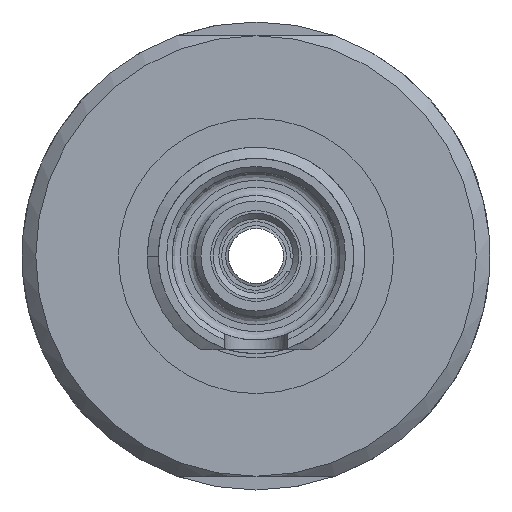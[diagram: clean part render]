
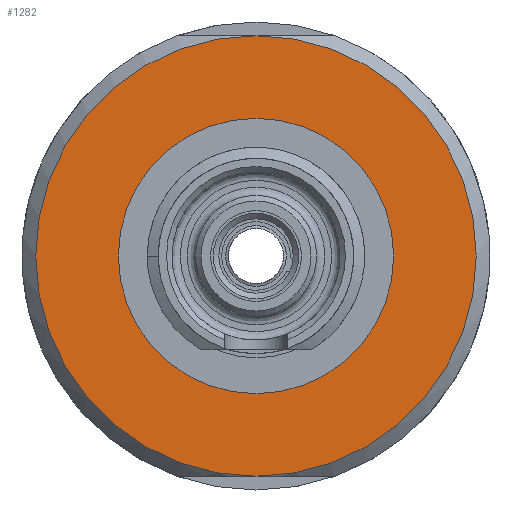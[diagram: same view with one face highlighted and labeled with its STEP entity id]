
A CAD part, left-side view. The second image highlights one B-rep face of the part: STEP entity #1282.
In plain terms, the highlighted planar face has unit normal (-1, 0, 0).
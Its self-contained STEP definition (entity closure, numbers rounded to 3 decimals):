
#174 = EDGE_CURVE ( 'NONE', #8149, #5110, #969, .T. ) ;
#292 = CARTESIAN_POINT ( 'NONE',  ( -27.7, 0., 8. ) ) ;
#507 = EDGE_LOOP ( 'NONE', ( #12074, #4198 ) ) ;
#625 = DIRECTION ( 'NONE',  ( 1., 0., 0. ) ) ;
#969 = CIRCLE ( 'NONE', #12092, 8. ) ;
#1282 = ADVANCED_FACE ( 'NONE', ( #1467, #5813 ), #4513, .F. ) ;
#1321 = DIRECTION ( 'NONE',  ( -1., 0., 0. ) ) ;
#1467 = FACE_OUTER_BOUND ( 'NONE', #507, .T. ) ;
#2974 = DIRECTION ( 'NONE',  ( 0., -1., 0. ) ) ;
#3828 = VERTEX_POINT ( 'NONE', #11154 ) ;
#3978 = AXIS2_PLACEMENT_3D ( 'NONE', #4760, #8917, #13125 ) ;
#4198 = ORIENTED_EDGE ( 'NONE', *, *, #8689, .T. ) ;
#4513 = PLANE ( 'NONE',  #9470 ) ;
#4760 = CARTESIAN_POINT ( 'NONE',  ( -27.7, 0., 0. ) ) ;
#4778 = CARTESIAN_POINT ( 'NONE',  ( -27.7, 0., -8. ) ) ;
#4886 = AXIS2_PLACEMENT_3D ( 'NONE', #12545, #9518, #2974 ) ;
#5110 = VERTEX_POINT ( 'NONE', #292 ) ;
#5474 = DIRECTION ( 'NONE',  ( 0., -1., 0. ) ) ;
#5770 = EDGE_LOOP ( 'NONE', ( #13336 ) ) ;
#5813 = FACE_BOUND ( 'NONE', #5770, .T. ) ;
#8149 = VERTEX_POINT ( 'NONE', #4778 ) ;
#8689 = EDGE_CURVE ( 'NONE', #5110, #8149, #10756, .T. ) ;
#8917 = DIRECTION ( 'NONE',  ( -1., 0., 0. ) ) ;
#9017 = CIRCLE ( 'NONE', #4886, 5. ) ;
#9470 = AXIS2_PLACEMENT_3D ( 'NONE', #10950, #625, #12116 ) ;
#9518 = DIRECTION ( 'NONE',  ( 1., 0., 0. ) ) ;
#10368 = EDGE_CURVE ( 'NONE', #3828, #3828, #9017, .T. ) ;
#10675 = CARTESIAN_POINT ( 'NONE',  ( -27.7, 0., 0. ) ) ;
#10756 = CIRCLE ( 'NONE', #3978, 8. ) ;
#10950 = CARTESIAN_POINT ( 'NONE',  ( -27.7, 0., 0. ) ) ;
#11154 = CARTESIAN_POINT ( 'NONE',  ( -27.7, -5., 0. ) ) ;
#12074 = ORIENTED_EDGE ( 'NONE', *, *, #174, .T. ) ;
#12092 = AXIS2_PLACEMENT_3D ( 'NONE', #10675, #1321, #5474 ) ;
#12116 = DIRECTION ( 'NONE',  ( 0., -1., 0. ) ) ;
#12545 = CARTESIAN_POINT ( 'NONE',  ( -27.7, 0., 0. ) ) ;
#13125 = DIRECTION ( 'NONE',  ( 0., -1., 0. ) ) ;
#13336 = ORIENTED_EDGE ( 'NONE', *, *, #10368, .T. ) ;
